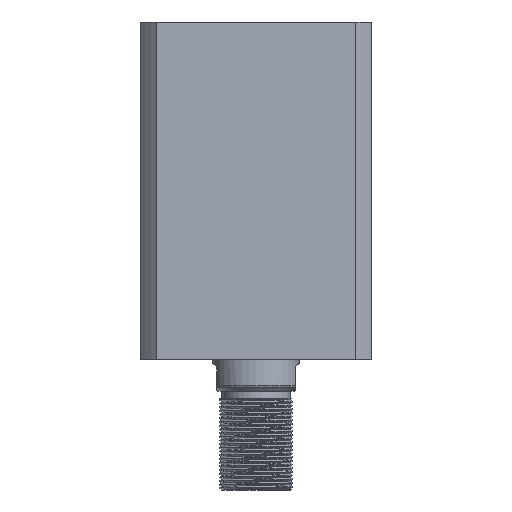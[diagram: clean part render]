
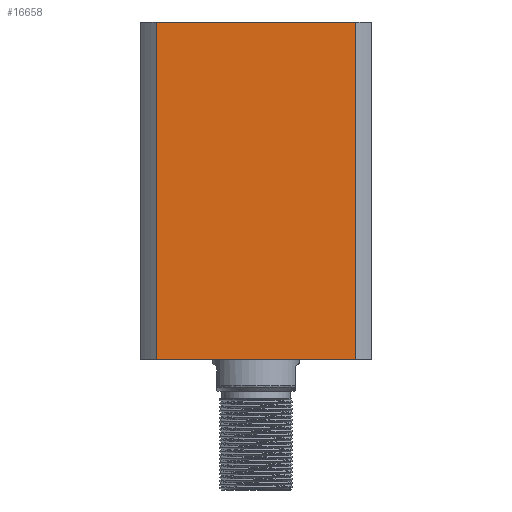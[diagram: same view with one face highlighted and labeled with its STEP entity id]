
A CAD part, front view. The second image highlights one B-rep face of the part: STEP entity #16658.
In plain terms, the highlighted planar face has unit normal (0, -1, 0) as drawn and (0, 1, 0) by its records, which use the part's own axes.
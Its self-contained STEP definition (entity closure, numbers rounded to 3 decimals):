
#81 = DIRECTION ( 'NONE',  ( -1., 0., 0. ) ) ;
#89 = CARTESIAN_POINT ( 'NONE',  ( -40.435, 47., -163. ) ) ;
#168 = DIRECTION ( 'NONE',  ( 0., 0., -1. ) ) ;
#453 = VERTEX_POINT ( 'NONE', #12413 ) ;
#1003 = VECTOR ( 'NONE', #168, 1000. ) ;
#1202 = ORIENTED_EDGE ( 'NONE', *, *, #2412, .F. ) ;
#1564 = LINE ( 'NONE', #89, #1003 ) ;
#2412 = EDGE_CURVE ( 'NONE', #21653, #15250, #1564, .T. ) ;
#2767 = CARTESIAN_POINT ( 'NONE',  ( -47., 47., 137. ) ) ;
#2869 = VECTOR ( 'NONE', #4027, 1000. ) ;
#3949 = DIRECTION ( 'NONE',  ( 0., 0., -1. ) ) ;
#4027 = DIRECTION ( 'NONE',  ( 0., 0., 1. ) ) ;
#4961 = VERTEX_POINT ( 'NONE', #10491 ) ;
#6240 = DIRECTION ( 'NONE',  ( -1., 0., 0. ) ) ;
#7896 = LINE ( 'NONE', #22140, #16592 ) ;
#8655 = ORIENTED_EDGE ( 'NONE', *, *, #10142, .T. ) ;
#8975 = CARTESIAN_POINT ( 'NONE',  ( -47., 47., 137. ) ) ;
#10142 = EDGE_CURVE ( 'NONE', #453, #15250, #7896, .T. ) ;
#10491 = CARTESIAN_POINT ( 'NONE',  ( 40.435, 47., 137. ) ) ;
#10616 = VECTOR ( 'NONE', #6240, 1000. ) ;
#11639 = EDGE_LOOP ( 'NONE', ( #13041, #8655, #1202, #20705 ) ) ;
#11981 = FACE_OUTER_BOUND ( 'NONE', #11639, .T. ) ;
#12413 = CARTESIAN_POINT ( 'NONE',  ( 40.435, 47., 0. ) ) ;
#13041 = ORIENTED_EDGE ( 'NONE', *, *, #15674, .F. ) ;
#14218 = DIRECTION ( 'NONE',  ( 0., -1., 0. ) ) ;
#14964 = EDGE_CURVE ( 'NONE', #4961, #21653, #20457, .T. ) ;
#15250 = VERTEX_POINT ( 'NONE', #16545 ) ;
#15674 = EDGE_CURVE ( 'NONE', #453, #4961, #21237, .T. ) ;
#15914 = PLANE ( 'NONE',  #20076 ) ;
#16066 = CARTESIAN_POINT ( 'NONE',  ( 40.435, 47., -163. ) ) ;
#16247 = CARTESIAN_POINT ( 'NONE',  ( -40.435, 47., 137. ) ) ;
#16545 = CARTESIAN_POINT ( 'NONE',  ( -40.435, 47., 0. ) ) ;
#16592 = VECTOR ( 'NONE', #81, 1000. ) ;
#16658 = ADVANCED_FACE ( 'NONE', ( #11981 ), #15914, .F. ) ;
#20076 = AXIS2_PLACEMENT_3D ( 'NONE', #8975, #14218, #3949 ) ;
#20457 = LINE ( 'NONE', #2767, #10616 ) ;
#20705 = ORIENTED_EDGE ( 'NONE', *, *, #14964, .F. ) ;
#21237 = LINE ( 'NONE', #16066, #2869 ) ;
#21653 = VERTEX_POINT ( 'NONE', #16247 ) ;
#22140 = CARTESIAN_POINT ( 'NONE',  ( -47., 47., 0. ) ) ;
